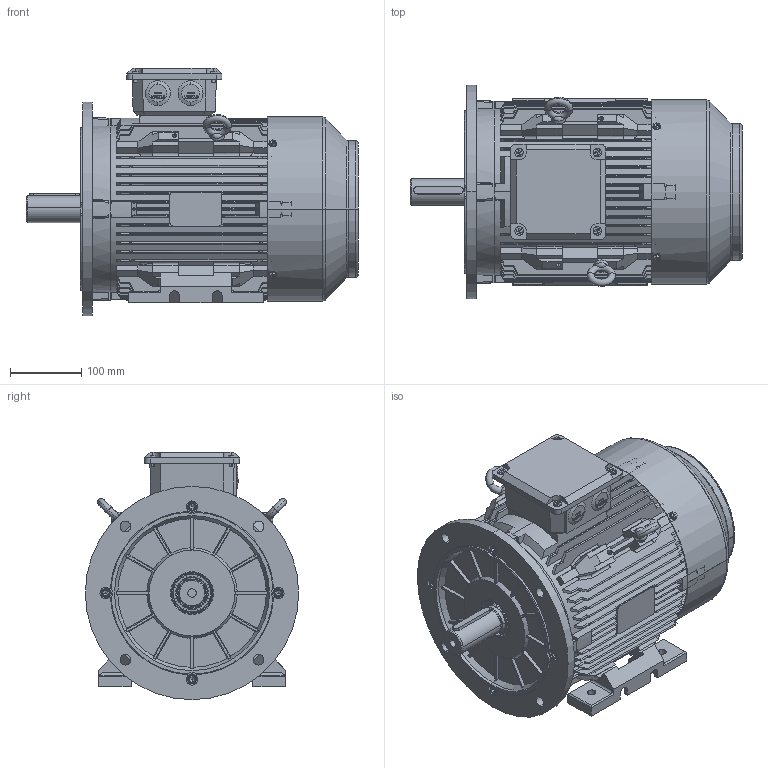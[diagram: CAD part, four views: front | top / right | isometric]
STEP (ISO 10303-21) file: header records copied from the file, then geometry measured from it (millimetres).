
FILE_DESCRIPTION (( 'STEP AP203' ), '1' );
FILE_NAME ('TC 132S B35外形图.STEP', '2013-04-19T07:19:10', ( '微软用户' ), ( '微软中国' ), 'SwSTEP 2.0', 'SolidWorks 2008', '' );
FILE_SCHEMA (( 'CONFIG_CONTROL_DESIGN' ));
Length unit declared in the file: millimetre
Products named in the file (20): TC 132S B5 机座_默认; TC 112-132接线盒座_默认; 6308_默认; M8-30_默认; 风罩_默认; 8_默认; TC 132 B5 法兰_默认; TC 132S B35俋倛芞; TC 132S 底脚_默认; TC 132 B3 端盖_默认; TC 132S转子_默认; TC 132S （波形垫在前）轴_默认; TC 112-132接线盒盖_默认; M25螺塞_默认; 132风叶_默认; 油封40-58-7_默认; M5-12_默认; 吊环M8_默认; M5-8_默认; 平键10-70_默认
Assembly tree (36 placements, depth 3):
  TC 132S B35俋倛芞
    8_默认  x4
    油封40-58-7_默认  x2
    M5-12_默认  x4
    TC 112-132接线盒盖_默认
    TC 132S B5 机座_默认
    M5-8_默认  x4
    TC 132S 底脚_默认  x2
    TC 132S转子_默认
      TC 132S （波形垫在前）轴_默认
      6308_默认  x2
    M8-30_默认  x4
    TC 132 B3 端盖_默认
    M25螺塞_默认  x2
    吊环M8_默认  x2
    132风叶_默认
    风罩_默认
    TC 132 B5 法兰_默认
    TC 112-132接线盒座_默认
    平键10-70_默认
Bounding box: 467 x 300 x 348 mm (x, y, z)
Volume: 4878817.3 mm3; surface area: 1707784.5 mm2
Topology: 35 solids, 35 shells, 4098 faces, 11309 edges, 7382 vertices
Faces by surface type: plane 2015, cylinder 1509, cone 336, bspline 120, torus 118
Entity records: 128993 total; most frequent: CARTESIAN_POINT 34504, ORIENTED_EDGE 19952, DIRECTION 18343, EDGE_CURVE 9976, VERTEX_POINT 6552, AXIS2_PLACEMENT_3D 6332, VECTOR 5679, LINE 5679
